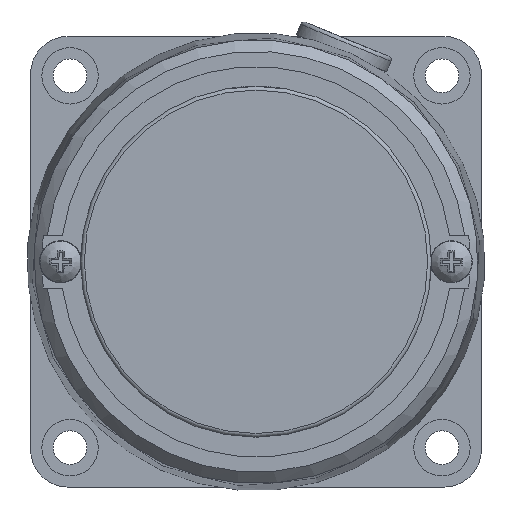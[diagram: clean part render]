
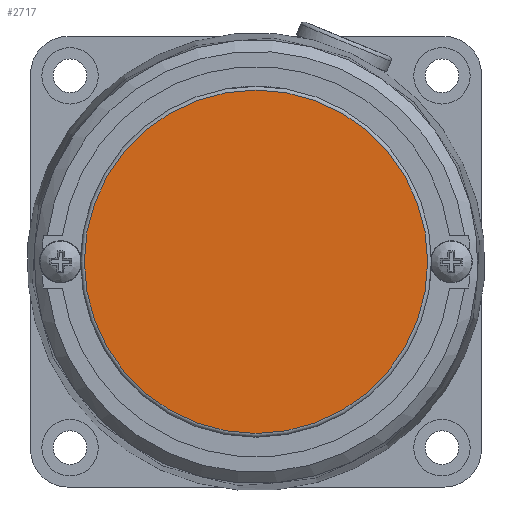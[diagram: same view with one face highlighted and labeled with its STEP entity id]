
A CAD part, left-side view. The second image highlights one B-rep face of the part: STEP entity #2717.
In plain terms, the highlighted planar face has unit normal (-1, 0, 0).
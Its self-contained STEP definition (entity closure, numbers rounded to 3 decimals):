
#50=PLANE('',#2904);
#275=FACE_OUTER_BOUND('',#435,.T.);
#435=EDGE_LOOP('',(#1911));
#623=CIRCLE('',#2900,22.85);
#1206=VERTEX_POINT('',#4036);
#1475=EDGE_CURVE('',#1206,#1206,#623,.T.);
#1911=ORIENTED_EDGE('',*,*,#1475,.F.);
#2717=ADVANCED_FACE('',(#275),#50,.T.);
#2900=AXIS2_PLACEMENT_3D('',#4038,#3211,#3212);
#2904=AXIS2_PLACEMENT_3D('',#4270,#3224,#3225);
#3211=DIRECTION('center_axis',(1.,0.,0.));
#3212=DIRECTION('ref_axis',(0.,0.,1.));
#3224=DIRECTION('center_axis',(-1.,0.,0.));
#3225=DIRECTION('ref_axis',(0.,-1.,0.));
#4036=CARTESIAN_POINT('',(-47.9,0.,22.85));
#4038=CARTESIAN_POINT('Origin',(-47.9,0.,0.));
#4270=CARTESIAN_POINT('Origin',(-47.9,0.,19.175));
